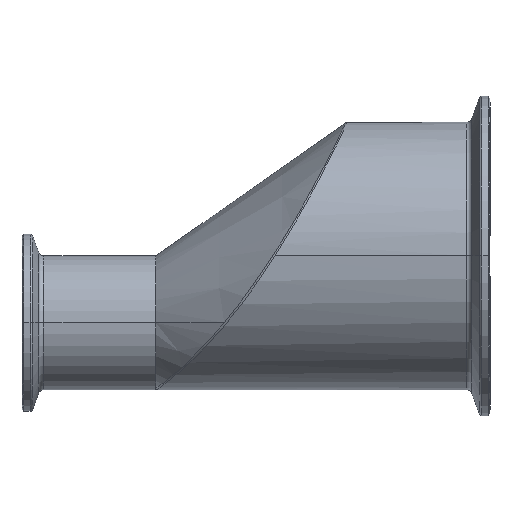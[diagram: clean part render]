
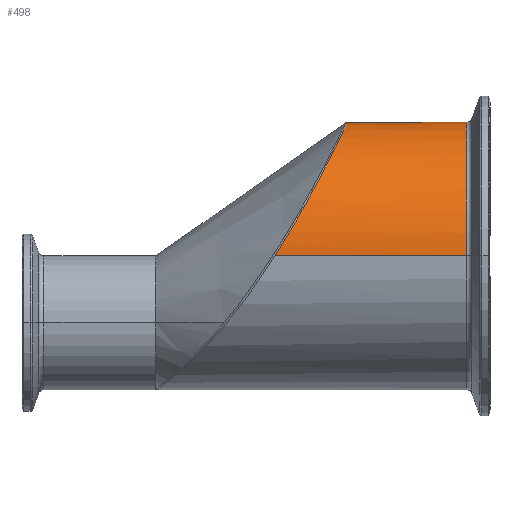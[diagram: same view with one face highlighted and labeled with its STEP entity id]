
A CAD part, top view. The second image highlights one B-rep face of the part: STEP entity #498.
In plain terms, the highlighted cylindrical face has radius 38.1 mm (diameter 76.2 mm), a partial arc.
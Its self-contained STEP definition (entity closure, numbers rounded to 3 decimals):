
#8 = CARTESIAN_POINT ( 'NONE',  ( 89.965, 32.287, -20.237 ) ) ;
#18 = CARTESIAN_POINT ( 'NONE',  ( 92.733, 38.041, 2.515 ) ) ;
#28 = CARTESIAN_POINT ( 'NONE',  ( 87.708, 27.744, 26.144 ) ) ;
#40 = CARTESIAN_POINT ( 'NONE',  ( 76.958, 7.946, 37.28 ) ) ;
#92 = VERTEX_POINT ( 'NONE', #454 ) ;
#124 = VERTEX_POINT ( 'NONE', #864 ) ;
#135 = VERTEX_POINT ( 'NONE', #1112 ) ;
#234 = CARTESIAN_POINT ( 'NONE',  ( 79.534, 12.414, -36.04 ) ) ;
#243 = CARTESIAN_POINT ( 'NONE',  ( 90.613, 33.617, -17.979 ) ) ;
#257 = CARTESIAN_POINT ( 'NONE',  ( 92.595, 37.75, 5.198 ) ) ;
#264 = CARTESIAN_POINT ( 'NONE',  ( 85.855, 24.106, 29.611 ) ) ;
#277 = CARTESIAN_POINT ( 'NONE',  ( 73.531, 2.254, 38.1 ) ) ;
#294 = ORIENTED_EDGE ( 'NONE', *, *, #2707, .T. ) ;
#360 = CARTESIAN_POINT ( 'NONE',  ( -12.994, 0., 38.1 ) ) ;
#407 = AXIS2_PLACEMENT_3D ( 'NONE', #997, #957, #1666 ) ;
#452 = CARTESIAN_POINT ( 'NONE',  ( 72.098, 0., -38.1 ) ) ;
#454 = CARTESIAN_POINT ( 'NONE',  ( 126.686, 0., 38.1 ) ) ;
#460 = CARTESIAN_POINT ( 'NONE',  ( 82.545, 17.845, -33.749 ) ) ;
#471 = CARTESIAN_POINT ( 'NONE',  ( 91.678, 35.821, -13.241 ) ) ;
#480 = CARTESIAN_POINT ( 'NONE',  ( 92.44, 37.423, 7.182 ) ) ;
#489 = CARTESIAN_POINT ( 'NONE',  ( 83.44, 19.524, 32.723 ) ) ;
#498 = ADVANCED_FACE ( 'NONE', ( #2068 ), #560, .T. ) ;
#530 = CARTESIAN_POINT ( 'NONE',  ( 72.098, 0., 38.1 ) ) ;
#560 = CYLINDRICAL_SURFACE ( 'NONE', #407, 38.1 ) ;
#568 = EDGE_CURVE ( 'NONE', #92, #124, #2440, .T. ) ;
#614 = DIRECTION ( 'NONE',  ( -1., 0., 0. ) ) ;
#660 = CARTESIAN_POINT ( 'NONE',  ( -12.994, 0., -38.1 ) ) ;
#692 = CARTESIAN_POINT ( 'NONE',  ( 84.733, 21.961, -31.159 ) ) ;
#702 = CARTESIAN_POINT ( 'NONE',  ( 92.414, 37.368, -7.463 ) ) ;
#710 = CARTESIAN_POINT ( 'NONE',  ( 91.728, 35.927, 12.959 ) ) ;
#722 = CARTESIAN_POINT ( 'NONE',  ( 82.583, 17.931, 33.622 ) ) ;
#864 = CARTESIAN_POINT ( 'NONE',  ( 126.686, 0., -38.1 ) ) ;
#932 = CARTESIAN_POINT ( 'NONE',  ( 86.263, 24.907, -28.858 ) ) ;
#944 = CARTESIAN_POINT ( 'NONE',  ( 92.576, 37.71, -5.476 ) ) ;
#952 = CARTESIAN_POINT ( 'NONE',  ( 90.666, 33.725, 17.775 ) ) ;
#955 = VERTEX_POINT ( 'NONE', #530 ) ;
#957 = DIRECTION ( 'NONE',  ( -1., 0., 0. ) ) ;
#968 = CARTESIAN_POINT ( 'NONE',  ( 81.41, 15.778, 34.701 ) ) ;
#995 = VECTOR ( 'NONE', #2216, 1000. ) ;
#997 = CARTESIAN_POINT ( 'NONE',  ( -12.994, 0., 0. ) ) ;
#1112 = CARTESIAN_POINT ( 'NONE',  ( 72.098, 0., -38.1 ) ) ;
#1153 = CARTESIAN_POINT ( 'NONE',  ( 73.519, 2.234, -38.1 ) ) ;
#1167 = CARTESIAN_POINT ( 'NONE',  ( 88.507, 29.333, -24.449 ) ) ;
#1180 = CARTESIAN_POINT ( 'NONE',  ( 92.722, 38.019, -2.822 ) ) ;
#1187 = CARTESIAN_POINT ( 'NONE',  ( 89.695, 31.736, 21.121 ) ) ;
#1197 = CARTESIAN_POINT ( 'NONE',  ( 79.568, 12.473, 36.02 ) ) ;
#1209 = VECTOR ( 'NONE', #614, 1000. ) ;
#1322 = AXIS2_PLACEMENT_3D ( 'NONE', #1708, #1735, #1746 ) ;
#1373 = CARTESIAN_POINT ( 'NONE',  ( 76.93, 7.899, -37.29 ) ) ;
#1386 = CARTESIAN_POINT ( 'NONE',  ( 89.617, 31.579, -21.325 ) ) ;
#1393 = CARTESIAN_POINT ( 'NONE',  ( 92.763, 38.105, 1.177 ) ) ;
#1406 = CARTESIAN_POINT ( 'NONE',  ( 88.558, 29.44, 24.218 ) ) ;
#1419 = CARTESIAN_POINT ( 'NONE',  ( 77.629, 9.093, 37.018 ) ) ;
#1595 = CARTESIAN_POINT ( 'NONE',  ( 78.901, 11.3, -36.404 ) ) ;
#1607 = CARTESIAN_POINT ( 'NONE',  ( 90.133, 32.631, -19.678 ) ) ;
#1617 = CARTESIAN_POINT ( 'NONE',  ( 92.636, 37.836, 4.527 ) ) ;
#1628 = CARTESIAN_POINT ( 'NONE',  ( 87.261, 26.86, 27.051 ) ) ;
#1638 = CARTESIAN_POINT ( 'NONE',  ( 74.924, 4.524, 37.901 ) ) ;
#1648 = EDGE_CURVE ( 'NONE', #92, #955, #2350, .T. ) ;
#1666 = DIRECTION ( 'NONE',  ( 0., 0., 1. ) ) ;
#1708 = CARTESIAN_POINT ( 'NONE',  ( 126.686, 0., 0. ) ) ;
#1735 = DIRECTION ( 'NONE',  ( -1., 0., 0. ) ) ;
#1746 = DIRECTION ( 'NONE',  ( 0., 0., 1. ) ) ;
#1812 = CARTESIAN_POINT ( 'NONE',  ( 81.381, 15.709, -34.79 ) ) ;
#1823 = CARTESIAN_POINT ( 'NONE',  ( 90.902, 34.213, -16.816 ) ) ;
#1831 = CARTESIAN_POINT ( 'NONE',  ( 92.497, 37.543, 6.525 ) ) ;
#1845 = CARTESIAN_POINT ( 'NONE',  ( 84.832, 22.138, 31.106 ) ) ;
#1853 = CARTESIAN_POINT ( 'NONE',  ( 72.098, 0., 38.1 ) ) ;
#1949 = ORIENTED_EDGE ( 'NONE', *, *, #568, .T. ) ;
#2024 = CARTESIAN_POINT ( 'NONE',  ( 84.198, 20.945, -31.849 ) ) ;
#2032 = CARTESIAN_POINT ( 'NONE',  ( 92.074, 36.653, -10.742 ) ) ;
#2042 = CARTESIAN_POINT ( 'NONE',  ( 92.115, 36.738, 10.441 ) ) ;
#2056 = CARTESIAN_POINT ( 'NONE',  ( 83.157, 18.995, 33.033 ) ) ;
#2068 = FACE_OUTER_BOUND ( 'NONE', #2245, .T. ) ;
#2109 = ORIENTED_EDGE ( 'NONE', *, *, #1648, .F. ) ;
#2136 = B_SPLINE_CURVE_WITH_KNOTS ( 'NONE', 3,
 ( #452, #1153, #2667, #1373, #2874, #1595, #234, #1812, #460, #2024, #692, #2243, #932, #2468, #1167, #2677, #1386, #8, #1607, #243, #1823, #471, #2032, #702, #2255, #944, #2477, #1180, #2688, #1393, #18, #1617, #257, #1831, #480, #2042, #710, #2263, #952, #2488, #1187, #2700, #1406, #28, #1628, #264, #1845, #489, #2056, #722, #2272, #968, #2496, #1197, #2710, #1419, #40, #1638, #277, #1853 ),
 .UNSPECIFIED., .F., .F.,
 ( 4, 2, 2, 2, 2, 2, 2, 2, 2, 2, 2, 2, 2, 2, 2, 2, 2, 2, 2, 2, 2, 2, 2, 2, 2, 2, 2, 2, 2, 4 ),
 ( 0.066, 0.074, 0.078, 0.082, 0.09, 0.094, 0.098, 0.106, 0.108, 0.11, 0.114, 0.123, 0.125, 0.127, 0.131, 0.135, 0.137, 0.139, 0.147, 0.151, 0.155, 0.159, 0.163, 0.171, 0.173, 0.175, 0.179, 0.183, 0.187, 0.195 ),
 .UNSPECIFIED. ) ;
#2148 = LINE ( 'NONE', #660, #995 ) ;
#2216 = DIRECTION ( 'NONE',  ( -1., 0., 0. ) ) ;
#2243 = CARTESIAN_POINT ( 'NONE',  ( 85.77, 23.951, -29.657 ) ) ;
#2245 = EDGE_LOOP ( 'NONE', ( #1949, #294, #2799, #2109 ) ) ;
#2255 = CARTESIAN_POINT ( 'NONE',  ( 92.474, 37.494, -6.8 ) ) ;
#2263 = CARTESIAN_POINT ( 'NONE',  ( 90.953, 34.318, 16.602 ) ) ;
#2272 = CARTESIAN_POINT ( 'NONE',  ( 82.293, 17.395, 33.902 ) ) ;
#2350 = LINE ( 'NONE', #360, #1209 ) ;
#2440 = CIRCLE ( 'NONE', #1322, 38.1 ) ;
#2468 = CARTESIAN_POINT ( 'NONE',  ( 87.668, 27.656, -26.324 ) ) ;
#2477 = CARTESIAN_POINT ( 'NONE',  ( 92.619, 37.801, -4.813 ) ) ;
#2488 = CARTESIAN_POINT ( 'NONE',  ( 90.037, 32.434, 20.034 ) ) ;
#2496 = CARTESIAN_POINT ( 'NONE',  ( 80.806, 14.685, 35.176 ) ) ;
#2515 = EDGE_CURVE ( 'NONE', #135, #955, #2136, .T. ) ;
#2667 = CARTESIAN_POINT ( 'NONE',  ( 74.902, 4.489, -37.905 ) ) ;
#2677 = CARTESIAN_POINT ( 'NONE',  ( 89.437, 31.214, -21.856 ) ) ;
#2688 = CARTESIAN_POINT ( 'NONE',  ( 92.758, 38.094, -1.491 ) ) ;
#2700 = CARTESIAN_POINT ( 'NONE',  ( 88.956, 30.24, 23.213 ) ) ;
#2707 = EDGE_CURVE ( 'NONE', #124, #135, #2148, .T. ) ;
#2710 = CARTESIAN_POINT ( 'NONE',  ( 78.932, 11.355, 36.388 ) ) ;
#2799 = ORIENTED_EDGE ( 'NONE', *, *, #2515, .T. ) ;
#2874 = CARTESIAN_POINT ( 'NONE',  ( 77.601, 9.045, -37.029 ) ) ;
